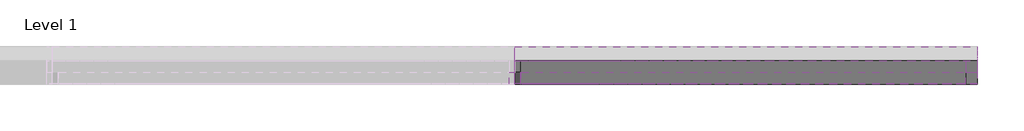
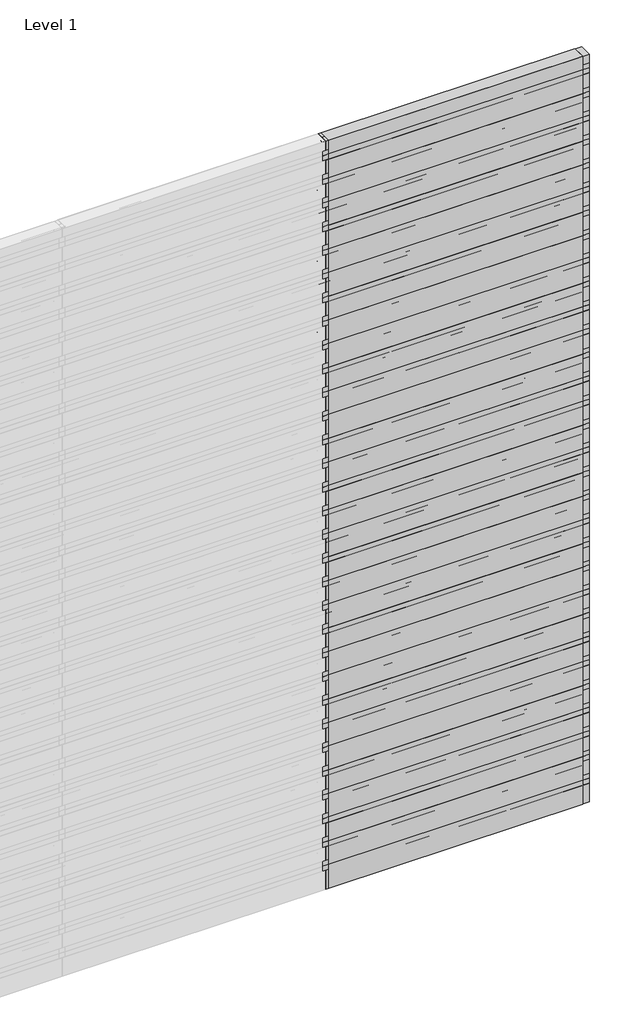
# One storey, part 3 of 3: 73 members, 64 plates.
"""IFC4 building model written with IfcOpenShell, lengths in millimetres."""

from ifc_helpers import new_model, si_unit, origin, place, context, project, spatial, transform, mapped, element, save
from components import rectangular_mullion_18d4e549, rectangular_mullion_3201b9fb, rectangular_mullion_5aa39df7, rectangular_mullion_60d32940, rectangular_mullion_66fc153d, empty_system_panel_empty_c392bfdd, empty_system_panel_empty_c228c368, empty_system_panel_empty_0c4ce8c7, empty_system_panel_empty_83ec7203, empty_system_panel_empty_71fd4c2e

model = new_model("IFC4")

# Units and contexts
model_context = context("Model", 3, world=origin())
ifc_project = project(units=[si_unit("LENGTHUNIT", "METRE", prefix="MILLI")], contexts=[model_context])

# Site, building, storey
site = spatial("IfcSite", under=ifc_project)
building = spatial("IfcBuilding", under=site)
storey = spatial("IfcBuildingStorey", under=building, Name="Level 1", Elevation=0.0)

# Members
placement = place(None, origin())
rectangular_mullion_shape = rectangular_mullion_18d4e549(model_context)
element("IfcMember", 1, ObjectType="Rectangular Mullion : RSen_21_CWM_blade - 150 D_gen_duco projects", at=placement, inside=storey, context=model_context, shape_type="MappedRepresentation", body=[
    mapped(rectangular_mullion_shape, transform((4000.0, 3000.0, 4370.0), x_axis=(0.0, 0.0, 1.0), y_axis=(0.0, 1.0, 0.0), z_axis=(-1.0, 0.0, 0.0))),
])
element("IfcMember", 2, ObjectType="Rectangular Mullion : RSen_21_CWM_blade - 150 D_gen_duco projects", at=placement, inside=storey, context=model_context, shape_type="MappedRepresentation", body=[
    mapped(rectangular_mullion_shape, transform((4000.0, 3000.0, 4560.0), x_axis=(0.0, 0.0, 1.0), y_axis=(0.0, 1.0, 0.0), z_axis=(-1.0, 0.0, 0.0))),
])
element("IfcMember", 3, ObjectType="Rectangular Mullion : RSen_21_CWM_blade - 150 D_gen_duco projects", at=placement, inside=storey, context=model_context, shape_type="MappedRepresentation", body=[
    mapped(rectangular_mullion_shape, transform((4000.0, 3000.0, 4750.0), x_axis=(0.0, 0.0, 1.0), y_axis=(0.0, 1.0, 0.0), z_axis=(-1.0, 0.0, 0.0))),
])
element("IfcMember", 4, ObjectType="Rectangular Mullion : RSen_21_CWM_blade - 150 D_gen_duco projects", at=placement, inside=storey, context=model_context, shape_type="MappedRepresentation", body=[
    mapped(rectangular_mullion_shape, transform((4000.0, 3000.0, 4940.0), x_axis=(0.0, 0.0, 1.0), y_axis=(0.0, 1.0, 0.0), z_axis=(-1.0, 0.0, 0.0))),
])
element("IfcMember", 5, ObjectType="Rectangular Mullion : RSen_21_CWM_blade - 150 D_gen_duco projects", at=placement, inside=storey, context=model_context, shape_type="MappedRepresentation", body=[
    mapped(rectangular_mullion_shape, transform((4000.0, 3000.0, 5130.0), x_axis=(0.0, 0.0, 1.0), y_axis=(0.0, 1.0, 0.0), z_axis=(-1.0, 0.0, 0.0))),
])
element("IfcMember", 6, ObjectType="Rectangular Mullion : RSen_21_CWM_blade - 150 D_gen_duco projects", at=placement, inside=storey, context=model_context, shape_type="MappedRepresentation", body=[
    mapped(rectangular_mullion_shape, transform((4000.0, 3000.0, 5320.0), x_axis=(0.0, 0.0, 1.0), y_axis=(0.0, 1.0, 0.0), z_axis=(-1.0, 0.0, 0.0))),
])
element("IfcMember", 7, ObjectType="Rectangular Mullion : RSen_21_CWM_blade - 150 D_gen_duco projects", at=placement, inside=storey, context=model_context, shape_type="MappedRepresentation", body=[
    mapped(rectangular_mullion_shape, transform((4000.0, 3000.0, 5510.0), x_axis=(0.0, 0.0, 1.0), y_axis=(0.0, 1.0, 0.0), z_axis=(-1.0, 0.0, 0.0))),
])
element("IfcMember", 8, ObjectType="Rectangular Mullion : RSen_21_CWM_blade - 150 D_gen_duco projects", at=placement, inside=storey, context=model_context, shape_type="MappedRepresentation", body=[
    mapped(rectangular_mullion_shape, transform((4000.0, 3000.0, 5700.0), x_axis=(0.0, 0.0, 1.0), y_axis=(0.0, 1.0, 0.0), z_axis=(-1.0, 0.0, 0.0))),
])
element("IfcMember", 9, ObjectType="Rectangular Mullion : RSen_21_CWM_blade - 150 D_gen_duco projects", at=placement, inside=storey, context=model_context, shape_type="MappedRepresentation", body=[
    mapped(rectangular_mullion_shape, transform((4000.0, 3000.0, 5890.0), x_axis=(0.0, 0.0, 1.0), y_axis=(0.0, 1.0, 0.0), z_axis=(-1.0, 0.0, 0.0))),
])
rectangular_mullion_2_shape = rectangular_mullion_3201b9fb(model_context)
element("IfcMember", 10, ObjectType="Rectangular Mullion : RSen_21_CWM_support profile 50x50_gen_duco projects", at=placement, inside=storey, context=model_context, shape_type="MappedRepresentation", body=[
    mapped(rectangular_mullion_2_shape, transform((4000.0, 3000.0, 0.0), x_axis=(-1.0, 0.0, 0.0), y_axis=(0.0, 1.0, 0.0), z_axis=(0.0, 0.0, -1.0))),
])
element("IfcMember", 11, ObjectType="Rectangular Mullion : RSen_21_CWM_support profile 50x50_gen_duco projects", at=placement, inside=storey, context=model_context, shape_type="MappedRepresentation", body=[
    mapped(rectangular_mullion_2_shape, transform((4000.0, 3000.0, 190.0), x_axis=(-1.0, 0.0, 0.0), y_axis=(0.0, 1.0, 0.0), z_axis=(0.0, 0.0, -1.0))),
])
element("IfcMember", 12, ObjectType="Rectangular Mullion : RSen_21_CWM_support profile 50x50_gen_duco projects", at=placement, inside=storey, context=model_context, shape_type="MappedRepresentation", body=[
    mapped(rectangular_mullion_2_shape, transform((4000.0, 3000.0, 380.0), x_axis=(-1.0, 0.0, 0.0), y_axis=(0.0, 1.0, 0.0), z_axis=(0.0, 0.0, -1.0))),
])
element("IfcMember", 13, ObjectType="Rectangular Mullion : RSen_21_CWM_support profile 50x50_gen_duco projects", at=placement, inside=storey, context=model_context, shape_type="MappedRepresentation", body=[
    mapped(rectangular_mullion_2_shape, transform((4000.0, 3000.0, 570.0), x_axis=(-1.0, 0.0, 0.0), y_axis=(0.0, 1.0, 0.0), z_axis=(0.0, 0.0, -1.0))),
])
element("IfcMember", 14, ObjectType="Rectangular Mullion : RSen_21_CWM_support profile 50x50_gen_duco projects", at=placement, inside=storey, context=model_context, shape_type="MappedRepresentation", body=[
    mapped(rectangular_mullion_2_shape, transform((4000.0, 3000.0, 760.0), x_axis=(-1.0, 0.0, 0.0), y_axis=(0.0, 1.0, 0.0), z_axis=(0.0, 0.0, -1.0))),
])
element("IfcMember", 15, ObjectType="Rectangular Mullion : RSen_21_CWM_support profile 50x50_gen_duco projects", at=placement, inside=storey, context=model_context, shape_type="MappedRepresentation", body=[
    mapped(rectangular_mullion_2_shape, transform((4000.0, 3000.0, 950.0), x_axis=(-1.0, 0.0, 0.0), y_axis=(0.0, 1.0, 0.0), z_axis=(0.0, 0.0, -1.0))),
])
element("IfcMember", 16, ObjectType="Rectangular Mullion : RSen_21_CWM_support profile 50x50_gen_duco projects", at=placement, inside=storey, context=model_context, shape_type="MappedRepresentation", body=[
    mapped(rectangular_mullion_2_shape, transform((4000.0, 3000.0, 1140.0), x_axis=(-1.0, 0.0, 0.0), y_axis=(0.0, 1.0, 0.0), z_axis=(0.0, 0.0, -1.0))),
])
element("IfcMember", 17, ObjectType="Rectangular Mullion : RSen_21_CWM_support profile 50x50_gen_duco projects", at=placement, inside=storey, context=model_context, shape_type="MappedRepresentation", body=[
    mapped(rectangular_mullion_2_shape, transform((4000.0, 3000.0, 1330.0), x_axis=(-1.0, 0.0, 0.0), y_axis=(0.0, 1.0, 0.0), z_axis=(0.0, 0.0, -1.0))),
])
element("IfcMember", 18, ObjectType="Rectangular Mullion : RSen_21_CWM_support profile 50x50_gen_duco projects", at=placement, inside=storey, context=model_context, shape_type="MappedRepresentation", body=[
    mapped(rectangular_mullion_2_shape, transform((4000.0, 3000.0, 1520.0), x_axis=(-1.0, 0.0, 0.0), y_axis=(0.0, 1.0, 0.0), z_axis=(0.0, 0.0, -1.0))),
])
element("IfcMember", 19, ObjectType="Rectangular Mullion : RSen_21_CWM_support profile 50x50_gen_duco projects", at=placement, inside=storey, context=model_context, shape_type="MappedRepresentation", body=[
    mapped(rectangular_mullion_2_shape, transform((4000.0, 3000.0, 1710.0), x_axis=(-1.0, 0.0, 0.0), y_axis=(0.0, 1.0, 0.0), z_axis=(0.0, 0.0, -1.0))),
])
element("IfcMember", 20, ObjectType="Rectangular Mullion : RSen_21_CWM_support profile 50x50_gen_duco projects", at=placement, inside=storey, context=model_context, shape_type="MappedRepresentation", body=[
    mapped(rectangular_mullion_2_shape, transform((4000.0, 3000.0, 1900.0), x_axis=(-1.0, 0.0, 0.0), y_axis=(0.0, 1.0, 0.0), z_axis=(0.0, 0.0, -1.0))),
])
element("IfcMember", 21, ObjectType="Rectangular Mullion : RSen_21_CWM_support profile 50x50_gen_duco projects", at=placement, inside=storey, context=model_context, shape_type="MappedRepresentation", body=[
    mapped(rectangular_mullion_2_shape, transform((4000.0, 3000.0, 2090.0), x_axis=(-1.0, 0.0, 0.0), y_axis=(0.0, 1.0, 0.0), z_axis=(0.0, 0.0, -1.0))),
])
element("IfcMember", 22, ObjectType="Rectangular Mullion : RSen_21_CWM_support profile 50x50_gen_duco projects", at=placement, inside=storey, context=model_context, shape_type="MappedRepresentation", body=[
    mapped(rectangular_mullion_2_shape, transform((4000.0, 3000.0, 2280.0), x_axis=(-1.0, 0.0, 0.0), y_axis=(0.0, 1.0, 0.0), z_axis=(0.0, 0.0, -1.0))),
])
element("IfcMember", 23, ObjectType="Rectangular Mullion : RSen_21_CWM_support profile 50x50_gen_duco projects", at=placement, inside=storey, context=model_context, shape_type="MappedRepresentation", body=[
    mapped(rectangular_mullion_2_shape, transform((4000.0, 3000.0, 2470.0), x_axis=(-1.0, 0.0, 0.0), y_axis=(0.0, 1.0, 0.0), z_axis=(0.0, 0.0, -1.0))),
])
element("IfcMember", 24, ObjectType="Rectangular Mullion : RSen_21_CWM_support profile 50x50_gen_duco projects", at=placement, inside=storey, context=model_context, shape_type="MappedRepresentation", body=[
    mapped(rectangular_mullion_2_shape, transform((4000.0, 3000.0, 2660.0), x_axis=(-1.0, 0.0, 0.0), y_axis=(0.0, 1.0, 0.0), z_axis=(0.0, 0.0, -1.0))),
])
element("IfcMember", 25, ObjectType="Rectangular Mullion : RSen_21_CWM_support profile 50x50_gen_duco projects", at=placement, inside=storey, context=model_context, shape_type="MappedRepresentation", body=[
    mapped(rectangular_mullion_2_shape, transform((4000.0, 3000.0, 2850.0), x_axis=(-1.0, 0.0, 0.0), y_axis=(0.0, 1.0, 0.0), z_axis=(0.0, 0.0, -1.0))),
])
element("IfcMember", 26, ObjectType="Rectangular Mullion : RSen_21_CWM_support profile 50x50_gen_duco projects", at=placement, inside=storey, context=model_context, shape_type="MappedRepresentation", body=[
    mapped(rectangular_mullion_2_shape, transform((4000.0, 3000.0, 3040.0), x_axis=(-1.0, 0.0, 0.0), y_axis=(0.0, 1.0, 0.0), z_axis=(0.0, 0.0, -1.0))),
])
element("IfcMember", 27, ObjectType="Rectangular Mullion : RSen_21_CWM_support profile 50x50_gen_duco projects", at=placement, inside=storey, context=model_context, shape_type="MappedRepresentation", body=[
    mapped(rectangular_mullion_2_shape, transform((4000.0, 3000.0, 3230.0), x_axis=(-1.0, 0.0, 0.0), y_axis=(0.0, 1.0, 0.0), z_axis=(0.0, 0.0, -1.0))),
])
element("IfcMember", 28, ObjectType="Rectangular Mullion : RSen_21_CWM_support profile 50x50_gen_duco projects", at=placement, inside=storey, context=model_context, shape_type="MappedRepresentation", body=[
    mapped(rectangular_mullion_2_shape, transform((4000.0, 3000.0, 3420.0), x_axis=(-1.0, 0.0, 0.0), y_axis=(0.0, 1.0, 0.0), z_axis=(0.0, 0.0, -1.0))),
])
element("IfcMember", 29, ObjectType="Rectangular Mullion : RSen_21_CWM_support profile 50x50_gen_duco projects", at=placement, inside=storey, context=model_context, shape_type="MappedRepresentation", body=[
    mapped(rectangular_mullion_2_shape, transform((4000.0, 3000.0, 3610.0), x_axis=(-1.0, 0.0, 0.0), y_axis=(0.0, 1.0, 0.0), z_axis=(0.0, 0.0, -1.0))),
])
element("IfcMember", 30, ObjectType="Rectangular Mullion : RSen_21_CWM_support profile 50x50_gen_duco projects", at=placement, inside=storey, context=model_context, shape_type="MappedRepresentation", body=[
    mapped(rectangular_mullion_2_shape, transform((4000.0, 3000.0, 3800.0), x_axis=(-1.0, 0.0, 0.0), y_axis=(0.0, 1.0, 0.0), z_axis=(0.0, 0.0, -1.0))),
])
element("IfcMember", 31, ObjectType="Rectangular Mullion : RSen_21_CWM_support profile 50x50_gen_duco projects", at=placement, inside=storey, context=model_context, shape_type="MappedRepresentation", body=[
    mapped(rectangular_mullion_2_shape, transform((4000.0, 3000.0, 3990.0), x_axis=(-1.0, 0.0, 0.0), y_axis=(0.0, 1.0, 0.0), z_axis=(0.0, 0.0, -1.0))),
])
element("IfcMember", 32, ObjectType="Rectangular Mullion : RSen_21_CWM_support profile 50x50_gen_duco projects", at=placement, inside=storey, context=model_context, shape_type="MappedRepresentation", body=[
    mapped(rectangular_mullion_2_shape, transform((4000.0, 3000.0, 4180.0), x_axis=(-1.0, 0.0, 0.0), y_axis=(0.0, 1.0, 0.0), z_axis=(0.0, 0.0, -1.0))),
])
element("IfcMember", 33, ObjectType="Rectangular Mullion : RSen_21_CWM_support profile 50x50_gen_duco projects", at=placement, inside=storey, context=model_context, shape_type="MappedRepresentation", body=[
    mapped(rectangular_mullion_2_shape, transform((4000.0, 3000.0, 4370.0), x_axis=(-1.0, 0.0, 0.0), y_axis=(0.0, 1.0, 0.0), z_axis=(0.0, 0.0, -1.0))),
])
element("IfcMember", 34, ObjectType="Rectangular Mullion : RSen_21_CWM_support profile 50x50_gen_duco projects", at=placement, inside=storey, context=model_context, shape_type="MappedRepresentation", body=[
    mapped(rectangular_mullion_2_shape, transform((4000.0, 3000.0, 4560.0), x_axis=(-1.0, 0.0, 0.0), y_axis=(0.0, 1.0, 0.0), z_axis=(0.0, 0.0, -1.0))),
])
element("IfcMember", 35, ObjectType="Rectangular Mullion : RSen_21_CWM_support profile 50x50_gen_duco projects", at=placement, inside=storey, context=model_context, shape_type="MappedRepresentation", body=[
    mapped(rectangular_mullion_2_shape, transform((4000.0, 3000.0, 4750.0), x_axis=(-1.0, 0.0, 0.0), y_axis=(0.0, 1.0, 0.0), z_axis=(0.0, 0.0, -1.0))),
])
element("IfcMember", 36, ObjectType="Rectangular Mullion : RSen_21_CWM_support profile 50x50_gen_duco projects", at=placement, inside=storey, context=model_context, shape_type="MappedRepresentation", body=[
    mapped(rectangular_mullion_2_shape, transform((4000.0, 3000.0, 4940.0), x_axis=(-1.0, 0.0, 0.0), y_axis=(0.0, 1.0, 0.0), z_axis=(0.0, 0.0, -1.0))),
])
element("IfcMember", 37, ObjectType="Rectangular Mullion : RSen_21_CWM_support profile 50x50_gen_duco projects", at=placement, inside=storey, context=model_context, shape_type="MappedRepresentation", body=[
    mapped(rectangular_mullion_2_shape, transform((4000.0, 3000.0, 5130.0), x_axis=(-1.0, 0.0, 0.0), y_axis=(0.0, 1.0, 0.0), z_axis=(0.0, 0.0, -1.0))),
])
element("IfcMember", 38, ObjectType="Rectangular Mullion : RSen_21_CWM_support profile 50x50_gen_duco projects", at=placement, inside=storey, context=model_context, shape_type="MappedRepresentation", body=[
    mapped(rectangular_mullion_2_shape, transform((4000.0, 3000.0, 5320.0), x_axis=(-1.0, 0.0, 0.0), y_axis=(0.0, 1.0, 0.0), z_axis=(0.0, 0.0, -1.0))),
])
element("IfcMember", 39, ObjectType="Rectangular Mullion : RSen_21_CWM_support profile 50x50_gen_duco projects", at=placement, inside=storey, context=model_context, shape_type="MappedRepresentation", body=[
    mapped(rectangular_mullion_2_shape, transform((4000.0, 3000.0, 5510.0), x_axis=(-1.0, 0.0, 0.0), y_axis=(0.0, 1.0, 0.0), z_axis=(0.0, 0.0, -1.0))),
])
element("IfcMember", 40, ObjectType="Rectangular Mullion : RSen_21_CWM_support profile 50x50_gen_duco projects", at=placement, inside=storey, context=model_context, shape_type="MappedRepresentation", body=[
    mapped(rectangular_mullion_2_shape, transform((4000.0, 3000.0, 5700.0), x_axis=(-1.0, 0.0, 0.0), y_axis=(0.0, 1.0, 0.0), z_axis=(0.0, 0.0, -1.0))),
])
rectangular_mullion_3_shape = rectangular_mullion_5aa39df7(model_context)
element("IfcMember", 41, ObjectType="Rectangular Mullion : RSen_21_CWM_support profile 50x50_gen_duco projects", at=placement, inside=storey, context=model_context, shape_type="MappedRepresentation", body=[
    mapped(rectangular_mullion_3_shape, transform((4000.0, 3000.0, 5890.0), x_axis=(-1.0, 0.0, 0.0), y_axis=(0.0, 1.0, 0.0), z_axis=(0.0, 0.0, -1.0))),
])
rectangular_mullion_4_shape = rectangular_mullion_60d32940(model_context)
element("IfcMember", 42, ObjectType="Rectangular Mullion : RSen_21_CWM_support profile 50x50 - right_gen_duco projects", at=placement, inside=storey, context=model_context, shape_type="MappedRepresentation", body=[
    mapped(rectangular_mullion_4_shape, transform((6000.0, 3000.0, 6000.0), x_axis=(1.0, 0.0, 0.0), y_axis=(0.0, 1.0, 0.0), z_axis=(0.0, 0.0, 1.0))),
])
rectangular_mullion_5_shape = rectangular_mullion_66fc153d(model_context)
element("IfcMember", 43, ObjectType="Rectangular Mullion : RSen_21_CWM_support profile 50x50 - right_gen_duco projects", at=placement, inside=storey, context=model_context, shape_type="MappedRepresentation", body=[
    mapped(rectangular_mullion_5_shape, transform((6000.0, 3000.0, 190.0), x_axis=(1.0, 0.0, 0.0), y_axis=(0.0, 1.0, 0.0), z_axis=(0.0, 0.0, 1.0))),
])
element("IfcMember", 44, ObjectType="Rectangular Mullion : RSen_21_CWM_support profile 50x50 - right_gen_duco projects", at=placement, inside=storey, context=model_context, shape_type="MappedRepresentation", body=[
    mapped(rectangular_mullion_5_shape, transform((6000.0, 3000.0, 380.0), x_axis=(1.0, 0.0, 0.0), y_axis=(0.0, 1.0, 0.0), z_axis=(0.0, 0.0, 1.0))),
])
element("IfcMember", 45, ObjectType="Rectangular Mullion : RSen_21_CWM_support profile 50x50 - right_gen_duco projects", at=placement, inside=storey, context=model_context, shape_type="MappedRepresentation", body=[
    mapped(rectangular_mullion_5_shape, transform((6000.0, 3000.0, 570.0), x_axis=(1.0, 0.0, 0.0), y_axis=(0.0, 1.0, 0.0), z_axis=(0.0, 0.0, 1.0))),
])
element("IfcMember", 46, ObjectType="Rectangular Mullion : RSen_21_CWM_support profile 50x50 - right_gen_duco projects", at=placement, inside=storey, context=model_context, shape_type="MappedRepresentation", body=[
    mapped(rectangular_mullion_5_shape, transform((6000.0, 3000.0, 760.0), x_axis=(1.0, 0.0, 0.0), y_axis=(0.0, 1.0, 0.0), z_axis=(0.0, 0.0, 1.0))),
])
element("IfcMember", 47, ObjectType="Rectangular Mullion : RSen_21_CWM_support profile 50x50 - right_gen_duco projects", at=placement, inside=storey, context=model_context, shape_type="MappedRepresentation", body=[
    mapped(rectangular_mullion_5_shape, transform((6000.0, 3000.0, 950.0), x_axis=(1.0, 0.0, 0.0), y_axis=(0.0, 1.0, 0.0), z_axis=(0.0, 0.0, 1.0))),
])
element("IfcMember", 48, ObjectType="Rectangular Mullion : RSen_21_CWM_support profile 50x50 - right_gen_duco projects", at=placement, inside=storey, context=model_context, shape_type="MappedRepresentation", body=[
    mapped(rectangular_mullion_5_shape, transform((6000.0, 3000.0, 1140.0), x_axis=(1.0, 0.0, 0.0), y_axis=(0.0, 1.0, 0.0), z_axis=(0.0, 0.0, 1.0))),
])
element("IfcMember", 49, ObjectType="Rectangular Mullion : RSen_21_CWM_support profile 50x50 - right_gen_duco projects", at=placement, inside=storey, context=model_context, shape_type="MappedRepresentation", body=[
    mapped(rectangular_mullion_5_shape, transform((6000.0, 3000.0, 1330.0), x_axis=(1.0, 0.0, 0.0), y_axis=(0.0, 1.0, 0.0), z_axis=(0.0, 0.0, 1.0))),
])
element("IfcMember", 50, ObjectType="Rectangular Mullion : RSen_21_CWM_support profile 50x50 - right_gen_duco projects", at=placement, inside=storey, context=model_context, shape_type="MappedRepresentation", body=[
    mapped(rectangular_mullion_5_shape, transform((6000.0, 3000.0, 1520.0), x_axis=(1.0, 0.0, 0.0), y_axis=(0.0, 1.0, 0.0), z_axis=(0.0, 0.0, 1.0))),
])
element("IfcMember", 51, ObjectType="Rectangular Mullion : RSen_21_CWM_support profile 50x50 - right_gen_duco projects", at=placement, inside=storey, context=model_context, shape_type="MappedRepresentation", body=[
    mapped(rectangular_mullion_5_shape, transform((6000.0, 3000.0, 1710.0), x_axis=(1.0, 0.0, 0.0), y_axis=(0.0, 1.0, 0.0), z_axis=(0.0, 0.0, 1.0))),
])
element("IfcMember", 52, ObjectType="Rectangular Mullion : RSen_21_CWM_support profile 50x50 - right_gen_duco projects", at=placement, inside=storey, context=model_context, shape_type="MappedRepresentation", body=[
    mapped(rectangular_mullion_5_shape, transform((6000.0, 3000.0, 1900.0), x_axis=(1.0, 0.0, 0.0), y_axis=(0.0, 1.0, 0.0), z_axis=(0.0, 0.0, 1.0))),
])
element("IfcMember", 53, ObjectType="Rectangular Mullion : RSen_21_CWM_support profile 50x50 - right_gen_duco projects", at=placement, inside=storey, context=model_context, shape_type="MappedRepresentation", body=[
    mapped(rectangular_mullion_5_shape, transform((6000.0, 3000.0, 2090.0), x_axis=(1.0, 0.0, 0.0), y_axis=(0.0, 1.0, 0.0), z_axis=(0.0, 0.0, 1.0))),
])
element("IfcMember", 54, ObjectType="Rectangular Mullion : RSen_21_CWM_support profile 50x50 - right_gen_duco projects", at=placement, inside=storey, context=model_context, shape_type="MappedRepresentation", body=[
    mapped(rectangular_mullion_5_shape, transform((6000.0, 3000.0, 2280.0), x_axis=(1.0, 0.0, 0.0), y_axis=(0.0, 1.0, 0.0), z_axis=(0.0, 0.0, 1.0))),
])
element("IfcMember", 55, ObjectType="Rectangular Mullion : RSen_21_CWM_support profile 50x50 - right_gen_duco projects", at=placement, inside=storey, context=model_context, shape_type="MappedRepresentation", body=[
    mapped(rectangular_mullion_5_shape, transform((6000.0, 3000.0, 2470.0), x_axis=(1.0, 0.0, 0.0), y_axis=(0.0, 1.0, 0.0), z_axis=(0.0, 0.0, 1.0))),
])
element("IfcMember", 56, ObjectType="Rectangular Mullion : RSen_21_CWM_support profile 50x50 - right_gen_duco projects", at=placement, inside=storey, context=model_context, shape_type="MappedRepresentation", body=[
    mapped(rectangular_mullion_5_shape, transform((6000.0, 3000.0, 2660.0), x_axis=(1.0, 0.0, 0.0), y_axis=(0.0, 1.0, 0.0), z_axis=(0.0, 0.0, 1.0))),
])
element("IfcMember", 57, ObjectType="Rectangular Mullion : RSen_21_CWM_support profile 50x50 - right_gen_duco projects", at=placement, inside=storey, context=model_context, shape_type="MappedRepresentation", body=[
    mapped(rectangular_mullion_5_shape, transform((6000.0, 3000.0, 2850.0), x_axis=(1.0, 0.0, 0.0), y_axis=(0.0, 1.0, 0.0), z_axis=(0.0, 0.0, 1.0))),
])
element("IfcMember", 58, ObjectType="Rectangular Mullion : RSen_21_CWM_support profile 50x50 - right_gen_duco projects", at=placement, inside=storey, context=model_context, shape_type="MappedRepresentation", body=[
    mapped(rectangular_mullion_5_shape, transform((6000.0, 3000.0, 3040.0), x_axis=(1.0, 0.0, 0.0), y_axis=(0.0, 1.0, 0.0), z_axis=(0.0, 0.0, 1.0))),
])
element("IfcMember", 59, ObjectType="Rectangular Mullion : RSen_21_CWM_support profile 50x50 - right_gen_duco projects", at=placement, inside=storey, context=model_context, shape_type="MappedRepresentation", body=[
    mapped(rectangular_mullion_5_shape, transform((6000.0, 3000.0, 3230.0), x_axis=(1.0, 0.0, 0.0), y_axis=(0.0, 1.0, 0.0), z_axis=(0.0, 0.0, 1.0))),
])
element("IfcMember", 60, ObjectType="Rectangular Mullion : RSen_21_CWM_support profile 50x50 - right_gen_duco projects", at=placement, inside=storey, context=model_context, shape_type="MappedRepresentation", body=[
    mapped(rectangular_mullion_5_shape, transform((6000.0, 3000.0, 3420.0), x_axis=(1.0, 0.0, 0.0), y_axis=(0.0, 1.0, 0.0), z_axis=(0.0, 0.0, 1.0))),
])
element("IfcMember", 61, ObjectType="Rectangular Mullion : RSen_21_CWM_support profile 50x50 - right_gen_duco projects", at=placement, inside=storey, context=model_context, shape_type="MappedRepresentation", body=[
    mapped(rectangular_mullion_5_shape, transform((6000.0, 3000.0, 3610.0), x_axis=(1.0, 0.0, 0.0), y_axis=(0.0, 1.0, 0.0), z_axis=(0.0, 0.0, 1.0))),
])
element("IfcMember", 62, ObjectType="Rectangular Mullion : RSen_21_CWM_support profile 50x50 - right_gen_duco projects", at=placement, inside=storey, context=model_context, shape_type="MappedRepresentation", body=[
    mapped(rectangular_mullion_5_shape, transform((6000.0, 3000.0, 3800.0), x_axis=(1.0, 0.0, 0.0), y_axis=(0.0, 1.0, 0.0), z_axis=(0.0, 0.0, 1.0))),
])
element("IfcMember", 63, ObjectType="Rectangular Mullion : RSen_21_CWM_support profile 50x50 - right_gen_duco projects", at=placement, inside=storey, context=model_context, shape_type="MappedRepresentation", body=[
    mapped(rectangular_mullion_5_shape, transform((6000.0, 3000.0, 3990.0), x_axis=(1.0, 0.0, 0.0), y_axis=(0.0, 1.0, 0.0), z_axis=(0.0, 0.0, 1.0))),
])
element("IfcMember", 64, ObjectType="Rectangular Mullion : RSen_21_CWM_support profile 50x50 - right_gen_duco projects", at=placement, inside=storey, context=model_context, shape_type="MappedRepresentation", body=[
    mapped(rectangular_mullion_5_shape, transform((6000.0, 3000.0, 4180.0), x_axis=(1.0, 0.0, 0.0), y_axis=(0.0, 1.0, 0.0), z_axis=(0.0, 0.0, 1.0))),
])
element("IfcMember", 65, ObjectType="Rectangular Mullion : RSen_21_CWM_support profile 50x50 - right_gen_duco projects", at=placement, inside=storey, context=model_context, shape_type="MappedRepresentation", body=[
    mapped(rectangular_mullion_5_shape, transform((6000.0, 3000.0, 4370.0), x_axis=(1.0, 0.0, 0.0), y_axis=(0.0, 1.0, 0.0), z_axis=(0.0, 0.0, 1.0))),
])
element("IfcMember", 66, ObjectType="Rectangular Mullion : RSen_21_CWM_support profile 50x50 - right_gen_duco projects", at=placement, inside=storey, context=model_context, shape_type="MappedRepresentation", body=[
    mapped(rectangular_mullion_5_shape, transform((6000.0, 3000.0, 4560.0), x_axis=(1.0, 0.0, 0.0), y_axis=(0.0, 1.0, 0.0), z_axis=(0.0, 0.0, 1.0))),
])
element("IfcMember", 67, ObjectType="Rectangular Mullion : RSen_21_CWM_support profile 50x50 - right_gen_duco projects", at=placement, inside=storey, context=model_context, shape_type="MappedRepresentation", body=[
    mapped(rectangular_mullion_5_shape, transform((6000.0, 3000.0, 4750.0), x_axis=(1.0, 0.0, 0.0), y_axis=(0.0, 1.0, 0.0), z_axis=(0.0, 0.0, 1.0))),
])
element("IfcMember", 68, ObjectType="Rectangular Mullion : RSen_21_CWM_support profile 50x50 - right_gen_duco projects", at=placement, inside=storey, context=model_context, shape_type="MappedRepresentation", body=[
    mapped(rectangular_mullion_5_shape, transform((6000.0, 3000.0, 4940.0), x_axis=(1.0, 0.0, 0.0), y_axis=(0.0, 1.0, 0.0), z_axis=(0.0, 0.0, 1.0))),
])
element("IfcMember", 69, ObjectType="Rectangular Mullion : RSen_21_CWM_support profile 50x50 - right_gen_duco projects", at=placement, inside=storey, context=model_context, shape_type="MappedRepresentation", body=[
    mapped(rectangular_mullion_5_shape, transform((6000.0, 3000.0, 5130.0), x_axis=(1.0, 0.0, 0.0), y_axis=(0.0, 1.0, 0.0), z_axis=(0.0, 0.0, 1.0))),
])
element("IfcMember", 70, ObjectType="Rectangular Mullion : RSen_21_CWM_support profile 50x50 - right_gen_duco projects", at=placement, inside=storey, context=model_context, shape_type="MappedRepresentation", body=[
    mapped(rectangular_mullion_5_shape, transform((6000.0, 3000.0, 5320.0), x_axis=(1.0, 0.0, 0.0), y_axis=(0.0, 1.0, 0.0), z_axis=(0.0, 0.0, 1.0))),
])
element("IfcMember", 71, ObjectType="Rectangular Mullion : RSen_21_CWM_support profile 50x50 - right_gen_duco projects", at=placement, inside=storey, context=model_context, shape_type="MappedRepresentation", body=[
    mapped(rectangular_mullion_5_shape, transform((6000.0, 3000.0, 5510.0), x_axis=(1.0, 0.0, 0.0), y_axis=(0.0, 1.0, 0.0), z_axis=(0.0, 0.0, 1.0))),
])
element("IfcMember", 72, ObjectType="Rectangular Mullion : RSen_21_CWM_support profile 50x50 - right_gen_duco projects", at=placement, inside=storey, context=model_context, shape_type="MappedRepresentation", body=[
    mapped(rectangular_mullion_5_shape, transform((6000.0, 3000.0, 5700.0), x_axis=(1.0, 0.0, 0.0), y_axis=(0.0, 1.0, 0.0), z_axis=(0.0, 0.0, 1.0))),
])
element("IfcMember", 73, ObjectType="Rectangular Mullion : RSen_21_CWM_support profile 50x50 - right_gen_duco projects", at=placement, inside=storey, context=model_context, shape_type="MappedRepresentation", body=[
    mapped(rectangular_mullion_5_shape, transform((6000.0, 3000.0, 5890.0), x_axis=(1.0, 0.0, 0.0), y_axis=(0.0, 1.0, 0.0), z_axis=(0.0, 0.0, 1.0))),
])

# Plates
empty_system_panel_empty_shape = empty_system_panel_empty_c392bfdd(model_context)
element("IfcPlate", 74, ObjectType="Empty System Panel : Empty", at=placement, inside=storey, context=model_context, shape_type="MappedRepresentation", body=[
    mapped(empty_system_panel_empty_shape, transform((5000.0, 3000.0, 0.0), x_axis=(-1.0, 0.0, 0.0), y_axis=(0.0, -1.0, 0.0), z_axis=(0.0, 0.0, 1.0))),
])
empty_system_panel_empty_2_shape = empty_system_panel_empty_c228c368(model_context)
element("IfcPlate", 75, ObjectType="Empty System Panel : Empty", at=placement, inside=storey, context=model_context, shape_type="MappedRepresentation", body=[
    mapped(empty_system_panel_empty_2_shape, transform((5000.0, 3000.0, 229.5979797), x_axis=(-1.0, 0.0, 0.0), y_axis=(0.0, -1.0, 0.0), z_axis=(0.0, 0.0, 1.0))),
])
element("IfcPlate", 76, ObjectType="Empty System Panel : Empty", at=placement, inside=storey, context=model_context, shape_type="MappedRepresentation", body=[
    mapped(empty_system_panel_empty_2_shape, transform((5000.0, 3000.0, 419.5979797), x_axis=(-1.0, 0.0, 0.0), y_axis=(0.0, -1.0, 0.0), z_axis=(0.0, 0.0, 1.0))),
])
element("IfcPlate", 77, ObjectType="Empty System Panel : Empty", at=placement, inside=storey, context=model_context, shape_type="MappedRepresentation", body=[
    mapped(empty_system_panel_empty_2_shape, transform((5000.0, 3000.0, 609.5979797), x_axis=(-1.0, 0.0, 0.0), y_axis=(0.0, -1.0, 0.0), z_axis=(0.0, 0.0, 1.0))),
])
element("IfcPlate", 78, ObjectType="Empty System Panel : Empty", at=placement, inside=storey, context=model_context, shape_type="MappedRepresentation", body=[
    mapped(empty_system_panel_empty_2_shape, transform((5000.0, 3000.0, 799.5979797), x_axis=(-1.0, 0.0, 0.0), y_axis=(0.0, -1.0, 0.0), z_axis=(0.0, 0.0, 1.0))),
])
element("IfcPlate", 79, ObjectType="Empty System Panel : Empty", at=placement, inside=storey, context=model_context, shape_type="MappedRepresentation", body=[
    mapped(empty_system_panel_empty_2_shape, transform((5000.0, 3000.0, 989.5979797), x_axis=(-1.0, 0.0, 0.0), y_axis=(0.0, -1.0, 0.0), z_axis=(0.0, 0.0, 1.0))),
])
element("IfcPlate", 80, ObjectType="Empty System Panel : Empty", at=placement, inside=storey, context=model_context, shape_type="MappedRepresentation", body=[
    mapped(empty_system_panel_empty_2_shape, transform((5000.0, 3000.0, 1179.5979797), x_axis=(-1.0, 0.0, 0.0), y_axis=(0.0, -1.0, 0.0), z_axis=(0.0, 0.0, 1.0))),
])
element("IfcPlate", 81, ObjectType="Empty System Panel : Empty", at=placement, inside=storey, context=model_context, shape_type="MappedRepresentation", body=[
    mapped(empty_system_panel_empty_2_shape, transform((5000.0, 3000.0, 1369.5979797), x_axis=(-1.0, 0.0, 0.0), y_axis=(0.0, -1.0, 0.0), z_axis=(0.0, 0.0, 1.0))),
])
element("IfcPlate", 82, ObjectType="Empty System Panel : Empty", at=placement, inside=storey, context=model_context, shape_type="MappedRepresentation", body=[
    mapped(empty_system_panel_empty_2_shape, transform((5000.0, 3000.0, 1559.5979797), x_axis=(-1.0, 0.0, 0.0), y_axis=(0.0, -1.0, 0.0), z_axis=(0.0, 0.0, 1.0))),
])
element("IfcPlate", 83, ObjectType="Empty System Panel : Empty", at=placement, inside=storey, context=model_context, shape_type="MappedRepresentation", body=[
    mapped(empty_system_panel_empty_2_shape, transform((5000.0, 3000.0, 1749.5979797), x_axis=(-1.0, 0.0, 0.0), y_axis=(0.0, -1.0, 0.0), z_axis=(0.0, 0.0, 1.0))),
])
element("IfcPlate", 84, ObjectType="Empty System Panel : Empty", at=placement, inside=storey, context=model_context, shape_type="MappedRepresentation", body=[
    mapped(empty_system_panel_empty_2_shape, transform((5000.0, 3000.0, 1939.5979797), x_axis=(-1.0, 0.0, 0.0), y_axis=(0.0, -1.0, 0.0), z_axis=(0.0, 0.0, 1.0))),
])
element("IfcPlate", 85, ObjectType="Empty System Panel : Empty", at=placement, inside=storey, context=model_context, shape_type="MappedRepresentation", body=[
    mapped(empty_system_panel_empty_2_shape, transform((5000.0, 3000.0, 2129.5979797), x_axis=(-1.0, 0.0, 0.0), y_axis=(0.0, -1.0, 0.0), z_axis=(0.0, 0.0, 1.0))),
])
element("IfcPlate", 86, ObjectType="Empty System Panel : Empty", at=placement, inside=storey, context=model_context, shape_type="MappedRepresentation", body=[
    mapped(empty_system_panel_empty_2_shape, transform((5000.0, 3000.0, 2319.5979797), x_axis=(-1.0, 0.0, 0.0), y_axis=(0.0, -1.0, 0.0), z_axis=(0.0, 0.0, 1.0))),
])
element("IfcPlate", 87, ObjectType="Empty System Panel : Empty", at=placement, inside=storey, context=model_context, shape_type="MappedRepresentation", body=[
    mapped(empty_system_panel_empty_2_shape, transform((5000.0, 3000.0, 2509.5979797), x_axis=(-1.0, 0.0, 0.0), y_axis=(0.0, -1.0, 0.0), z_axis=(0.0, 0.0, 1.0))),
])
element("IfcPlate", 88, ObjectType="Empty System Panel : Empty", at=placement, inside=storey, context=model_context, shape_type="MappedRepresentation", body=[
    mapped(empty_system_panel_empty_2_shape, transform((5000.0, 3000.0, 2699.5979797), x_axis=(-1.0, 0.0, 0.0), y_axis=(0.0, -1.0, 0.0), z_axis=(0.0, 0.0, 1.0))),
])
element("IfcPlate", 89, ObjectType="Empty System Panel : Empty", at=placement, inside=storey, context=model_context, shape_type="MappedRepresentation", body=[
    mapped(empty_system_panel_empty_2_shape, transform((5000.0, 3000.0, 2889.5979797), x_axis=(-1.0, 0.0, 0.0), y_axis=(0.0, -1.0, 0.0), z_axis=(0.0, 0.0, 1.0))),
])
element("IfcPlate", 90, ObjectType="Empty System Panel : Empty", at=placement, inside=storey, context=model_context, shape_type="MappedRepresentation", body=[
    mapped(empty_system_panel_empty_2_shape, transform((5000.0, 3000.0, 3079.5979797), x_axis=(-1.0, 0.0, 0.0), y_axis=(0.0, -1.0, 0.0), z_axis=(0.0, 0.0, 1.0))),
])
element("IfcPlate", 91, ObjectType="Empty System Panel : Empty", at=placement, inside=storey, context=model_context, shape_type="MappedRepresentation", body=[
    mapped(empty_system_panel_empty_2_shape, transform((5000.0, 3000.0, 3269.5979797), x_axis=(-1.0, 0.0, 0.0), y_axis=(0.0, -1.0, 0.0), z_axis=(0.0, 0.0, 1.0))),
])
element("IfcPlate", 92, ObjectType="Empty System Panel : Empty", at=placement, inside=storey, context=model_context, shape_type="MappedRepresentation", body=[
    mapped(empty_system_panel_empty_2_shape, transform((5000.0, 3000.0, 3459.5979797), x_axis=(-1.0, 0.0, 0.0), y_axis=(0.0, -1.0, 0.0), z_axis=(0.0, 0.0, 1.0))),
])
element("IfcPlate", 93, ObjectType="Empty System Panel : Empty", at=placement, inside=storey, context=model_context, shape_type="MappedRepresentation", body=[
    mapped(empty_system_panel_empty_2_shape, transform((5000.0, 3000.0, 3649.5979797), x_axis=(-1.0, 0.0, 0.0), y_axis=(0.0, -1.0, 0.0), z_axis=(0.0, 0.0, 1.0))),
])
element("IfcPlate", 94, ObjectType="Empty System Panel : Empty", at=placement, inside=storey, context=model_context, shape_type="MappedRepresentation", body=[
    mapped(empty_system_panel_empty_2_shape, transform((5000.0, 3000.0, 3839.5979797), x_axis=(-1.0, 0.0, 0.0), y_axis=(0.0, -1.0, 0.0), z_axis=(0.0, 0.0, 1.0))),
])
element("IfcPlate", 95, ObjectType="Empty System Panel : Empty", at=placement, inside=storey, context=model_context, shape_type="MappedRepresentation", body=[
    mapped(empty_system_panel_empty_2_shape, transform((5000.0, 3000.0, 4029.5979797), x_axis=(-1.0, 0.0, 0.0), y_axis=(0.0, -1.0, 0.0), z_axis=(0.0, 0.0, 1.0))),
])
element("IfcPlate", 96, ObjectType="Empty System Panel : Empty", at=placement, inside=storey, context=model_context, shape_type="MappedRepresentation", body=[
    mapped(empty_system_panel_empty_2_shape, transform((5000.0, 3000.0, 4219.5979797), x_axis=(-1.0, 0.0, 0.0), y_axis=(0.0, -1.0, 0.0), z_axis=(0.0, 0.0, 1.0))),
])
element("IfcPlate", 97, ObjectType="Empty System Panel : Empty", at=placement, inside=storey, context=model_context, shape_type="MappedRepresentation", body=[
    mapped(empty_system_panel_empty_2_shape, transform((5000.0, 3000.0, 4409.5979797), x_axis=(-1.0, 0.0, 0.0), y_axis=(0.0, -1.0, 0.0), z_axis=(0.0, 0.0, 1.0))),
])
element("IfcPlate", 98, ObjectType="Empty System Panel : Empty", at=placement, inside=storey, context=model_context, shape_type="MappedRepresentation", body=[
    mapped(empty_system_panel_empty_2_shape, transform((5000.0, 3000.0, 4599.5979797), x_axis=(-1.0, 0.0, 0.0), y_axis=(0.0, -1.0, 0.0), z_axis=(0.0, 0.0, 1.0))),
])
element("IfcPlate", 99, ObjectType="Empty System Panel : Empty", at=placement, inside=storey, context=model_context, shape_type="MappedRepresentation", body=[
    mapped(empty_system_panel_empty_2_shape, transform((5000.0, 3000.0, 4789.5979797), x_axis=(-1.0, 0.0, 0.0), y_axis=(0.0, -1.0, 0.0), z_axis=(0.0, 0.0, 1.0))),
])
element("IfcPlate", 100, ObjectType="Empty System Panel : Empty", at=placement, inside=storey, context=model_context, shape_type="MappedRepresentation", body=[
    mapped(empty_system_panel_empty_2_shape, transform((5000.0, 3000.0, 4979.5979797), x_axis=(-1.0, 0.0, 0.0), y_axis=(0.0, -1.0, 0.0), z_axis=(0.0, 0.0, 1.0))),
])
element("IfcPlate", 101, ObjectType="Empty System Panel : Empty", at=placement, inside=storey, context=model_context, shape_type="MappedRepresentation", body=[
    mapped(empty_system_panel_empty_2_shape, transform((5000.0, 3000.0, 5169.5979797), x_axis=(-1.0, 0.0, 0.0), y_axis=(0.0, -1.0, 0.0), z_axis=(0.0, 0.0, 1.0))),
])
element("IfcPlate", 102, ObjectType="Empty System Panel : Empty", at=placement, inside=storey, context=model_context, shape_type="MappedRepresentation", body=[
    mapped(empty_system_panel_empty_2_shape, transform((5000.0, 3000.0, 5359.5979797), x_axis=(-1.0, 0.0, 0.0), y_axis=(0.0, -1.0, 0.0), z_axis=(0.0, 0.0, 1.0))),
])
element("IfcPlate", 103, ObjectType="Empty System Panel : Empty", at=placement, inside=storey, context=model_context, shape_type="MappedRepresentation", body=[
    mapped(empty_system_panel_empty_2_shape, transform((5000.0, 3000.0, 5549.5979797), x_axis=(-1.0, 0.0, 0.0), y_axis=(0.0, -1.0, 0.0), z_axis=(0.0, 0.0, 1.0))),
])
element("IfcPlate", 104, ObjectType="Empty System Panel : Empty", at=placement, inside=storey, context=model_context, shape_type="MappedRepresentation", body=[
    mapped(empty_system_panel_empty_2_shape, transform((5000.0, 3000.0, 5739.5979797), x_axis=(-1.0, 0.0, 0.0), y_axis=(0.0, -1.0, 0.0), z_axis=(0.0, 0.0, 1.0))),
])
empty_system_panel_empty_3_shape = empty_system_panel_empty_0c4ce8c7(model_context)
element("IfcPlate", 105, ObjectType="Empty System Panel : Empty", at=placement, inside=storey, context=model_context, shape_type="MappedRepresentation", body=[
    mapped(empty_system_panel_empty_3_shape, transform((5000.0, 3000.0, 5929.5979797), x_axis=(-1.0, 0.0, 0.0), y_axis=(0.0, -1.0, 0.0), z_axis=(0.0, 0.0, 1.0))),
])
empty_system_panel_empty_4_shape = empty_system_panel_empty_83ec7203(model_context)
element("IfcPlate", 106, ObjectType="Empty System Panel : Empty", at=placement, inside=storey, context=model_context, shape_type="MappedRepresentation", body=[
    mapped(empty_system_panel_empty_4_shape, transform((4987.5, 3000.0, 0.0), x_axis=(-1.0, 0.0, 0.0), y_axis=(0.0, -1.0, 0.0), z_axis=(0.0, 0.0, 1.0))),
])
element("IfcPlate", 107, ObjectType="Empty System Panel : Empty", at=placement, inside=storey, context=model_context, shape_type="MappedRepresentation", body=[
    mapped(empty_system_panel_empty_4_shape, transform((4987.5, 3000.0, 190.0), x_axis=(-1.0, 0.0, 0.0), y_axis=(0.0, -1.0, 0.0), z_axis=(0.0, 0.0, 1.0))),
])
element("IfcPlate", 108, ObjectType="Empty System Panel : Empty", at=placement, inside=storey, context=model_context, shape_type="MappedRepresentation", body=[
    mapped(empty_system_panel_empty_4_shape, transform((4987.5, 3000.0, 380.0), x_axis=(-1.0, 0.0, 0.0), y_axis=(0.0, -1.0, 0.0), z_axis=(0.0, 0.0, 1.0))),
])
element("IfcPlate", 109, ObjectType="Empty System Panel : Empty", at=placement, inside=storey, context=model_context, shape_type="MappedRepresentation", body=[
    mapped(empty_system_panel_empty_4_shape, transform((4987.5, 3000.0, 570.0), x_axis=(-1.0, 0.0, 0.0), y_axis=(0.0, -1.0, 0.0), z_axis=(0.0, 0.0, 1.0))),
])
element("IfcPlate", 110, ObjectType="Empty System Panel : Empty", at=placement, inside=storey, context=model_context, shape_type="MappedRepresentation", body=[
    mapped(empty_system_panel_empty_4_shape, transform((4987.5, 3000.0, 760.0), x_axis=(-1.0, 0.0, 0.0), y_axis=(0.0, -1.0, 0.0), z_axis=(0.0, 0.0, 1.0))),
])
element("IfcPlate", 111, ObjectType="Empty System Panel : Empty", at=placement, inside=storey, context=model_context, shape_type="MappedRepresentation", body=[
    mapped(empty_system_panel_empty_4_shape, transform((4987.5, 3000.0, 950.0), x_axis=(-1.0, 0.0, 0.0), y_axis=(0.0, -1.0, 0.0), z_axis=(0.0, 0.0, 1.0))),
])
element("IfcPlate", 112, ObjectType="Empty System Panel : Empty", at=placement, inside=storey, context=model_context, shape_type="MappedRepresentation", body=[
    mapped(empty_system_panel_empty_4_shape, transform((4987.5, 3000.0, 1140.0), x_axis=(-1.0, 0.0, 0.0), y_axis=(0.0, -1.0, 0.0), z_axis=(0.0, 0.0, 1.0))),
])
element("IfcPlate", 113, ObjectType="Empty System Panel : Empty", at=placement, inside=storey, context=model_context, shape_type="MappedRepresentation", body=[
    mapped(empty_system_panel_empty_4_shape, transform((4987.5, 3000.0, 1330.0), x_axis=(-1.0, 0.0, 0.0), y_axis=(0.0, -1.0, 0.0), z_axis=(0.0, 0.0, 1.0))),
])
element("IfcPlate", 114, ObjectType="Empty System Panel : Empty", at=placement, inside=storey, context=model_context, shape_type="MappedRepresentation", body=[
    mapped(empty_system_panel_empty_4_shape, transform((4987.5, 3000.0, 1520.0), x_axis=(-1.0, 0.0, 0.0), y_axis=(0.0, -1.0, 0.0), z_axis=(0.0, 0.0, 1.0))),
])
element("IfcPlate", 115, ObjectType="Empty System Panel : Empty", at=placement, inside=storey, context=model_context, shape_type="MappedRepresentation", body=[
    mapped(empty_system_panel_empty_4_shape, transform((4987.5, 3000.0, 1710.0), x_axis=(-1.0, 0.0, 0.0), y_axis=(0.0, -1.0, 0.0), z_axis=(0.0, 0.0, 1.0))),
])
element("IfcPlate", 116, ObjectType="Empty System Panel : Empty", at=placement, inside=storey, context=model_context, shape_type="MappedRepresentation", body=[
    mapped(empty_system_panel_empty_4_shape, transform((4987.5, 3000.0, 1900.0), x_axis=(-1.0, 0.0, 0.0), y_axis=(0.0, -1.0, 0.0), z_axis=(0.0, 0.0, 1.0))),
])
element("IfcPlate", 117, ObjectType="Empty System Panel : Empty", at=placement, inside=storey, context=model_context, shape_type="MappedRepresentation", body=[
    mapped(empty_system_panel_empty_4_shape, transform((4987.5, 3000.0, 2090.0), x_axis=(-1.0, 0.0, 0.0), y_axis=(0.0, -1.0, 0.0), z_axis=(0.0, 0.0, 1.0))),
])
element("IfcPlate", 118, ObjectType="Empty System Panel : Empty", at=placement, inside=storey, context=model_context, shape_type="MappedRepresentation", body=[
    mapped(empty_system_panel_empty_4_shape, transform((4987.5, 3000.0, 2280.0), x_axis=(-1.0, 0.0, 0.0), y_axis=(0.0, -1.0, 0.0), z_axis=(0.0, 0.0, 1.0))),
])
element("IfcPlate", 119, ObjectType="Empty System Panel : Empty", at=placement, inside=storey, context=model_context, shape_type="MappedRepresentation", body=[
    mapped(empty_system_panel_empty_4_shape, transform((4987.5, 3000.0, 2470.0), x_axis=(-1.0, 0.0, 0.0), y_axis=(0.0, -1.0, 0.0), z_axis=(0.0, 0.0, 1.0))),
])
element("IfcPlate", 120, ObjectType="Empty System Panel : Empty", at=placement, inside=storey, context=model_context, shape_type="MappedRepresentation", body=[
    mapped(empty_system_panel_empty_4_shape, transform((4987.5, 3000.0, 2660.0), x_axis=(-1.0, 0.0, 0.0), y_axis=(0.0, -1.0, 0.0), z_axis=(0.0, 0.0, 1.0))),
])
element("IfcPlate", 121, ObjectType="Empty System Panel : Empty", at=placement, inside=storey, context=model_context, shape_type="MappedRepresentation", body=[
    mapped(empty_system_panel_empty_4_shape, transform((4987.5, 3000.0, 2850.0), x_axis=(-1.0, 0.0, 0.0), y_axis=(0.0, -1.0, 0.0), z_axis=(0.0, 0.0, 1.0))),
])
element("IfcPlate", 122, ObjectType="Empty System Panel : Empty", at=placement, inside=storey, context=model_context, shape_type="MappedRepresentation", body=[
    mapped(empty_system_panel_empty_4_shape, transform((4987.5, 3000.0, 3040.0), x_axis=(-1.0, 0.0, 0.0), y_axis=(0.0, -1.0, 0.0), z_axis=(0.0, 0.0, 1.0))),
])
element("IfcPlate", 123, ObjectType="Empty System Panel : Empty", at=placement, inside=storey, context=model_context, shape_type="MappedRepresentation", body=[
    mapped(empty_system_panel_empty_4_shape, transform((4987.5, 3000.0, 3230.0), x_axis=(-1.0, 0.0, 0.0), y_axis=(0.0, -1.0, 0.0), z_axis=(0.0, 0.0, 1.0))),
])
element("IfcPlate", 124, ObjectType="Empty System Panel : Empty", at=placement, inside=storey, context=model_context, shape_type="MappedRepresentation", body=[
    mapped(empty_system_panel_empty_4_shape, transform((4987.5, 3000.0, 3420.0), x_axis=(-1.0, 0.0, 0.0), y_axis=(0.0, -1.0, 0.0), z_axis=(0.0, 0.0, 1.0))),
])
element("IfcPlate", 125, ObjectType="Empty System Panel : Empty", at=placement, inside=storey, context=model_context, shape_type="MappedRepresentation", body=[
    mapped(empty_system_panel_empty_4_shape, transform((4987.5, 3000.0, 3610.0), x_axis=(-1.0, 0.0, 0.0), y_axis=(0.0, -1.0, 0.0), z_axis=(0.0, 0.0, 1.0))),
])
element("IfcPlate", 126, ObjectType="Empty System Panel : Empty", at=placement, inside=storey, context=model_context, shape_type="MappedRepresentation", body=[
    mapped(empty_system_panel_empty_4_shape, transform((4987.5, 3000.0, 3800.0), x_axis=(-1.0, 0.0, 0.0), y_axis=(0.0, -1.0, 0.0), z_axis=(0.0, 0.0, 1.0))),
])
element("IfcPlate", 127, ObjectType="Empty System Panel : Empty", at=placement, inside=storey, context=model_context, shape_type="MappedRepresentation", body=[
    mapped(empty_system_panel_empty_4_shape, transform((4987.5, 3000.0, 3990.0), x_axis=(-1.0, 0.0, 0.0), y_axis=(0.0, -1.0, 0.0), z_axis=(0.0, 0.0, 1.0))),
])
element("IfcPlate", 128, ObjectType="Empty System Panel : Empty", at=placement, inside=storey, context=model_context, shape_type="MappedRepresentation", body=[
    mapped(empty_system_panel_empty_4_shape, transform((4987.5, 3000.0, 4180.0), x_axis=(-1.0, 0.0, 0.0), y_axis=(0.0, -1.0, 0.0), z_axis=(0.0, 0.0, 1.0))),
])
element("IfcPlate", 129, ObjectType="Empty System Panel : Empty", at=placement, inside=storey, context=model_context, shape_type="MappedRepresentation", body=[
    mapped(empty_system_panel_empty_4_shape, transform((4987.5, 3000.0, 4370.0), x_axis=(-1.0, 0.0, 0.0), y_axis=(0.0, -1.0, 0.0), z_axis=(0.0, 0.0, 1.0))),
])
element("IfcPlate", 130, ObjectType="Empty System Panel : Empty", at=placement, inside=storey, context=model_context, shape_type="MappedRepresentation", body=[
    mapped(empty_system_panel_empty_4_shape, transform((4987.5, 3000.0, 4560.0), x_axis=(-1.0, 0.0, 0.0), y_axis=(0.0, -1.0, 0.0), z_axis=(0.0, 0.0, 1.0))),
])
element("IfcPlate", 131, ObjectType="Empty System Panel : Empty", at=placement, inside=storey, context=model_context, shape_type="MappedRepresentation", body=[
    mapped(empty_system_panel_empty_4_shape, transform((4987.5, 3000.0, 4750.0), x_axis=(-1.0, 0.0, 0.0), y_axis=(0.0, -1.0, 0.0), z_axis=(0.0, 0.0, 1.0))),
])
element("IfcPlate", 132, ObjectType="Empty System Panel : Empty", at=placement, inside=storey, context=model_context, shape_type="MappedRepresentation", body=[
    mapped(empty_system_panel_empty_4_shape, transform((4987.5, 3000.0, 4940.0), x_axis=(-1.0, 0.0, 0.0), y_axis=(0.0, -1.0, 0.0), z_axis=(0.0, 0.0, 1.0))),
])
element("IfcPlate", 133, ObjectType="Empty System Panel : Empty", at=placement, inside=storey, context=model_context, shape_type="MappedRepresentation", body=[
    mapped(empty_system_panel_empty_4_shape, transform((4987.5, 3000.0, 5130.0), x_axis=(-1.0, 0.0, 0.0), y_axis=(0.0, -1.0, 0.0), z_axis=(0.0, 0.0, 1.0))),
])
element("IfcPlate", 134, ObjectType="Empty System Panel : Empty", at=placement, inside=storey, context=model_context, shape_type="MappedRepresentation", body=[
    mapped(empty_system_panel_empty_4_shape, transform((4987.5, 3000.0, 5320.0), x_axis=(-1.0, 0.0, 0.0), y_axis=(0.0, -1.0, 0.0), z_axis=(0.0, 0.0, 1.0))),
])
element("IfcPlate", 135, ObjectType="Empty System Panel : Empty", at=placement, inside=storey, context=model_context, shape_type="MappedRepresentation", body=[
    mapped(empty_system_panel_empty_4_shape, transform((4987.5, 3000.0, 5510.0), x_axis=(-1.0, 0.0, 0.0), y_axis=(0.0, -1.0, 0.0), z_axis=(0.0, 0.0, 1.0))),
])
element("IfcPlate", 136, ObjectType="Empty System Panel : Empty", at=placement, inside=storey, context=model_context, shape_type="MappedRepresentation", body=[
    mapped(empty_system_panel_empty_4_shape, transform((4987.5, 3000.0, 5700.0), x_axis=(-1.0, 0.0, 0.0), y_axis=(0.0, -1.0, 0.0), z_axis=(0.0, 0.0, 1.0))),
])
empty_system_panel_empty_5_shape = empty_system_panel_empty_71fd4c2e(model_context)
element("IfcPlate", 137, ObjectType="Empty System Panel : Empty", at=placement, inside=storey, context=model_context, shape_type="MappedRepresentation", body=[
    mapped(empty_system_panel_empty_5_shape, transform((4987.5, 3000.0, 5890.0), x_axis=(-1.0, 0.0, 0.0), y_axis=(0.0, -1.0, 0.0), z_axis=(0.0, 0.0, 1.0))),
])

save(model, "model.ifc")
